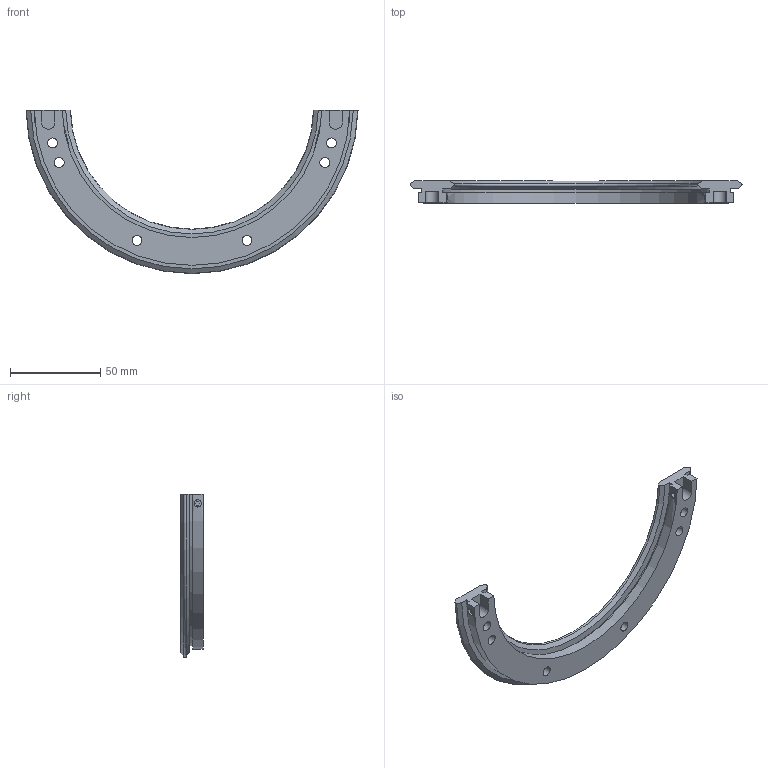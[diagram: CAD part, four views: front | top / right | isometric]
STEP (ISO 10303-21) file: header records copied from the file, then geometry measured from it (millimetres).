
FILE_DESCRIPTION( ( 'STEP AP203' ), '1' );
FILE_NAME( 'p:/temp/worker_25/temp/exporttempdir_3224_171_Awill/format_0/TR25 159 R180.stp', '2021-09-17T07:38:55', ( 'License CC BY-ND 4.0' ), ( 'CADENAS' ), ' ', 'PARTsolutions', ' ' );
FILE_SCHEMA( ( 'CONFIG_CONTROL_DESIGN' ) );
Length unit declared in the file: millimetre
Products named in the file (1): _TR25 159 R180
Bounding box: 183.58 x 12.25 x 90.3 mm (x, y, z)
Volume: 48227.5 mm3; surface area: 20966.3 mm2
Topology: 1 solids, 1 shells, 80 faces, 195 edges, 131 vertices
Faces by surface type: plane 52, cylinder 22, cone 4, torus 2
Full cylindrical faces by diameter (mm): 4 x4, 5.5 x6, 9 x6
Entity records: 2570 total; most frequent: CARTESIAN_POINT 672, DIRECTION 370, ORIENTED_EDGE 352, EDGE_CURVE 176, AXIS2_PLACEMENT_3D 129, VERTEX_POINT 129, EDGE_LOOP 122, LINE 112
